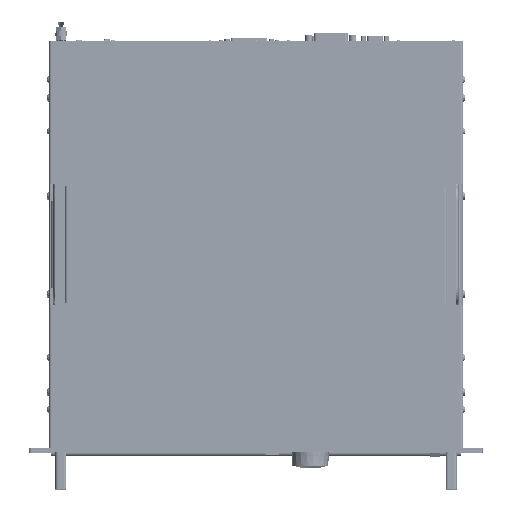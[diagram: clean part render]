
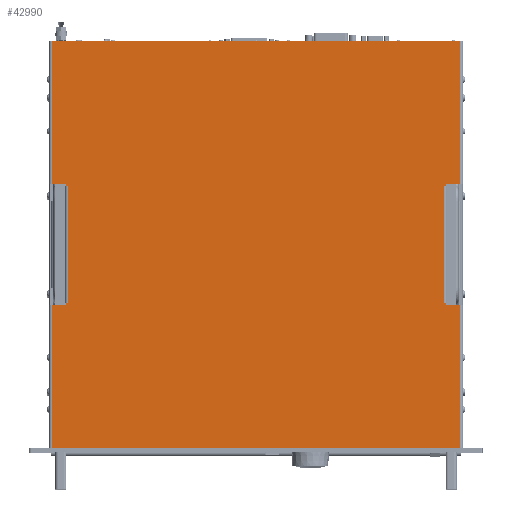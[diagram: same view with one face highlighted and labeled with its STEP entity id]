
A CAD part, top view. The second image highlights one B-rep face of the part: STEP entity #42990.
In plain terms, the highlighted planar face has unit normal (0, 0, 1).
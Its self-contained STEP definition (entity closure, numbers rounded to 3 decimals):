
#42990=ADVANCED_FACE('',(#90763),#90764,.F.);
#90763=FACE_OUTER_BOUND('',#170400,.T.);
#90764=PLANE('',#170401);
#170400=EDGE_LOOP('',(#297686,#297687,#297688,#297689,#297690,#297691,#297692,#297693,#297694,#297695,#297696,#297697,#297698,#297699,#297700,#297701,#297702,#297703,#297704,#297705));
#170401=AXIS2_PLACEMENT_3D('',#297706,#297707,#297708);
#297686=ORIENTED_EDGE('',*,*,#364590,.T.);
#297687=ORIENTED_EDGE('',*,*,#364610,.F.);
#297688=ORIENTED_EDGE('',*,*,#364611,.F.);
#297689=ORIENTED_EDGE('',*,*,#364254,.F.);
#297690=ORIENTED_EDGE('',*,*,#364576,.F.);
#297691=ORIENTED_EDGE('',*,*,#364239,.F.);
#297692=ORIENTED_EDGE('',*,*,#364565,.F.);
#297693=ORIENTED_EDGE('',*,*,#364612,.F.);
#297694=ORIENTED_EDGE('',*,*,#364608,.T.);
#297695=ORIENTED_EDGE('',*,*,#364603,.F.);
#297696=ORIENTED_EDGE('',*,*,#364600,.T.);
#297697=ORIENTED_EDGE('',*,*,#364613,.F.);
#297698=ORIENTED_EDGE('',*,*,#364541,.F.);
#297699=ORIENTED_EDGE('',*,*,#364229,.F.);
#297700=ORIENTED_EDGE('',*,*,#364530,.F.);
#297701=ORIENTED_EDGE('',*,*,#364249,.F.);
#297702=ORIENTED_EDGE('',*,*,#364614,.F.);
#297703=ORIENTED_EDGE('',*,*,#364615,.F.);
#297704=ORIENTED_EDGE('',*,*,#364587,.T.);
#297705=ORIENTED_EDGE('',*,*,#364595,.T.);
#297706=CARTESIAN_POINT('',(241.3,260.625,101.899));
#297707=DIRECTION('',(0.,0.,-1.0));
#297708=DIRECTION('',(1.0,0.,0.));
#364229=EDGE_CURVE('',#438612,#438614,#438615,.T.);
#364239=EDGE_CURVE('',#438630,#438632,#438633,.T.);
#364249=EDGE_CURVE('',#438648,#438650,#438651,.T.);
#364254=EDGE_CURVE('',#438657,#438659,#438660,.T.);
#364530=EDGE_CURVE('',#438650,#438612,#439090,.T.);
#364541=EDGE_CURVE('',#438614,#439105,#439106,.T.);
#364565=EDGE_CURVE('',#439138,#438630,#439140,.T.);
#364576=EDGE_CURVE('',#438632,#438657,#439155,.T.);
#364587=EDGE_CURVE('',#439166,#439169,#439171,.T.);
#364590=EDGE_CURVE('',#439176,#439173,#439177,.T.);
#364595=EDGE_CURVE('',#439169,#439176,#439182,.T.);
#364600=EDGE_CURVE('',#439188,#439186,#439189,.T.);
#364603=EDGE_CURVE('',#439188,#439192,#439193,.T.);
#364608=EDGE_CURVE('',#439198,#439192,#439200,.T.);
#364610=EDGE_CURVE('',#439202,#439173,#439203,.T.);
#364611=EDGE_CURVE('',#438659,#439202,#439204,.T.);
#364612=EDGE_CURVE('',#439198,#439138,#439205,.T.);
#364613=EDGE_CURVE('',#439105,#439186,#439206,.T.);
#364614=EDGE_CURVE('',#439207,#438648,#439208,.T.);
#364615=EDGE_CURVE('',#439166,#439207,#439209,.T.);
#438612=VERTEX_POINT('',#544585);
#438614=VERTEX_POINT('',#544587);
#438615=LINE('',#544588,#544589);
#438630=VERTEX_POINT('',#544607);
#438632=VERTEX_POINT('',#544609);
#438633=LINE('',#544610,#544611);
#438648=VERTEX_POINT('',#544629);
#438650=VERTEX_POINT('',#544631);
#438651=LINE('',#544632,#544633);
#438657=VERTEX_POINT('',#544640);
#438659=VERTEX_POINT('',#544642);
#438660=LINE('',#544643,#544644);
#439090=LINE('',#545195,#545196);
#439105=VERTEX_POINT('',#545216);
#439106=LINE('',#545217,#545218);
#439138=VERTEX_POINT('',#545264);
#439140=LINE('',#545267,#545268);
#439155=LINE('',#545288,#545289);
#439166=VERTEX_POINT('',#545304);
#439169=VERTEX_POINT('',#545308);
#439171=LINE('',#545310,#545311);
#439173=VERTEX_POINT('',#545313);
#439176=VERTEX_POINT('',#545317);
#439177=LINE('',#545318,#545319);
#439182=LINE('',#545324,#545325);
#439186=VERTEX_POINT('',#545330);
#439188=VERTEX_POINT('',#545333);
#439189=LINE('',#545334,#545335);
#439192=VERTEX_POINT('',#545338);
#439193=LINE('',#545339,#545340);
#439198=VERTEX_POINT('',#545345);
#439200=LINE('',#545348,#545349);
#439202=VERTEX_POINT('',#545351);
#439203=LINE('',#545352,#545353);
#439204=LINE('',#545354,#545355);
#439205=LINE('',#545356,#545357);
#439206=LINE('',#545358,#545359);
#439207=VERTEX_POINT('',#545360);
#439208=LINE('',#545361,#545362);
#439209=LINE('',#545363,#545364);
#544585=CARTESIAN_POINT('',(23.623,44.,101.899));
#544587=CARTESIAN_POINT('',(23.623,196.0,101.899));
#544588=CARTESIAN_POINT('',(23.623,190.313,101.899));
#544589=VECTOR('',#605464,1.0);
#544607=CARTESIAN_POINT('',(23.623,325.25,101.899));
#544609=CARTESIAN_POINT('',(23.623,477.25,101.899));
#544610=CARTESIAN_POINT('',(23.623,330.938,101.899));
#544611=VECTOR('',#605480,1.0);
#544629=CARTESIAN_POINT('',(458.977,196.0,101.899));
#544631=CARTESIAN_POINT('',(458.977,44.,101.899));
#544632=CARTESIAN_POINT('',(458.977,190.313,101.899));
#544633=VECTOR('',#605496,1.0);
#544640=CARTESIAN_POINT('',(458.977,477.25,101.899));
#544642=CARTESIAN_POINT('',(458.977,325.25,101.899));
#544643=CARTESIAN_POINT('',(458.977,330.938,101.899));
#544644=VECTOR('',#605504,1.0);
#545195=CARTESIAN_POINT('',(461.727,44.,101.899));
#545196=VECTOR('',#605890,1.0);
#545216=CARTESIAN_POINT('',(38.873,196.0,101.899));
#545217=CARTESIAN_POINT('',(20.873,196.0,101.899));
#545218=VECTOR('',#605908,1.0);
#545264=CARTESIAN_POINT('',(38.873,325.25,101.899));
#545267=CARTESIAN_POINT('',(38.873,325.25,101.899));
#545268=VECTOR('',#605936,1.0);
#545288=CARTESIAN_POINT('',(20.873,477.25,101.899));
#545289=VECTOR('',#605954,1.0);
#545304=CARTESIAN_POINT('',(443.727,198.0,101.899));
#545308=CARTESIAN_POINT('',(441.977,198.,101.899));
#545310=CARTESIAN_POINT('',(342.593,198.,101.899));
#545311=VECTOR('',#605966,1.0);
#545313=CARTESIAN_POINT('',(443.727,323.25,101.899));
#545317=CARTESIAN_POINT('',(441.977,323.25,101.899));
#545318=CARTESIAN_POINT('',(342.593,323.25,101.899));
#545319=VECTOR('',#605968,1.0);
#545324=CARTESIAN_POINT('',(441.977,260.625,101.899));
#545325=VECTOR('',#605978,1.0);
#545330=CARTESIAN_POINT('',(38.873,198.0,101.899));
#545333=CARTESIAN_POINT('',(40.623,198.,101.899));
#545334=CARTESIAN_POINT('',(140.007,198.,101.899));
#545335=VECTOR('',#605981,1.0);
#545338=CARTESIAN_POINT('',(40.623,323.25,101.899));
#545339=CARTESIAN_POINT('',(40.623,260.625,101.899));
#545340=VECTOR('',#605985,1.0);
#545345=CARTESIAN_POINT('',(38.873,323.25,101.899));
#545348=CARTESIAN_POINT('',(140.007,323.25,101.899));
#545349=VECTOR('',#605993,1.0);
#545351=CARTESIAN_POINT('',(443.727,325.25,101.899));
#545352=CARTESIAN_POINT('',(443.727,325.25,101.899));
#545353=VECTOR('',#605994,1.0);
#545354=CARTESIAN_POINT('',(461.727,325.25,101.899));
#545355=VECTOR('',#605995,1.0);
#545356=CARTESIAN_POINT('',(38.873,323.25,101.899));
#545357=VECTOR('',#605996,1.0);
#545358=CARTESIAN_POINT('',(38.873,196.0,101.899));
#545359=VECTOR('',#605997,1.0);
#545360=CARTESIAN_POINT('',(443.727,196.0,101.899));
#545361=CARTESIAN_POINT('',(443.727,196.0,101.899));
#545362=VECTOR('',#605998,1.0);
#545363=CARTESIAN_POINT('',(443.727,198.0,101.899));
#545364=VECTOR('',#605999,1.0);
#605464=DIRECTION('',(0.0,1.0,0.0));
#605480=DIRECTION('',(0.0,1.0,0.0));
#605496=DIRECTION('',(0.0,-1.0,0.0));
#605504=DIRECTION('',(0.0,-1.0,0.0));
#605890=DIRECTION('',(-1.0,0.0,0.0));
#605908=DIRECTION('',(1.0,0.0,0.0));
#605936=DIRECTION('',(-1.0,0.0,0.0));
#605954=DIRECTION('',(1.0,0.0,0.0));
#605966=DIRECTION('',(-1.0,0.0,0.0));
#605968=DIRECTION('',(1.0,0.0,0.0));
#605978=DIRECTION('',(0.0,1.0,0.0));
#605981=DIRECTION('',(-1.0,0.0,0.0));
#605985=DIRECTION('',(0.0,1.0,0.0));
#605993=DIRECTION('',(1.0,0.0,0.0));
#605994=DIRECTION('',(0.0,-1.0,0.0));
#605995=DIRECTION('',(-1.0,0.0,0.0));
#605996=DIRECTION('',(0.0,1.0,0.0));
#605997=DIRECTION('',(0.0,1.0,0.0));
#605998=DIRECTION('',(1.0,0.0,0.0));
#605999=DIRECTION('',(0.0,-1.0,0.0));
